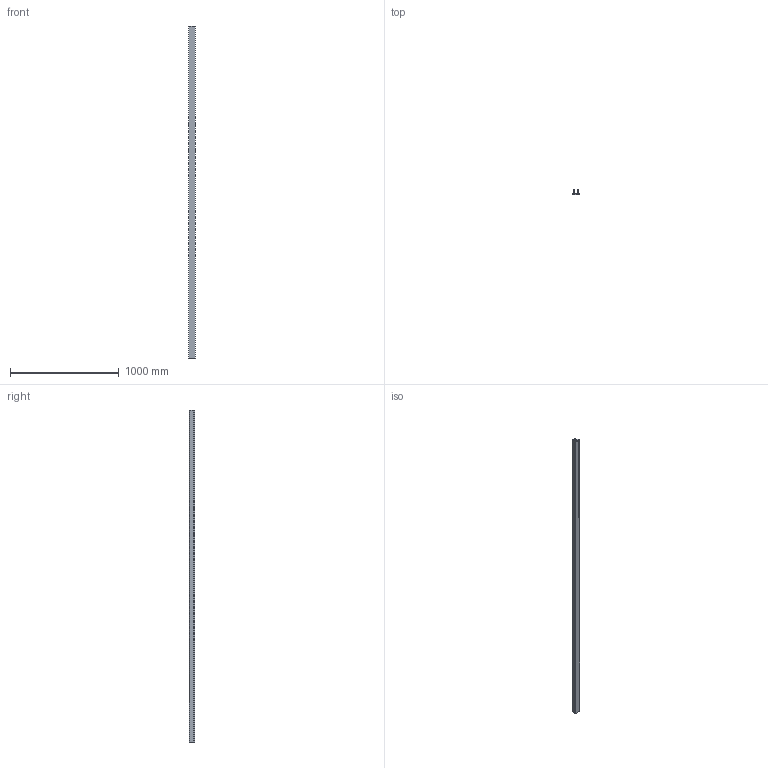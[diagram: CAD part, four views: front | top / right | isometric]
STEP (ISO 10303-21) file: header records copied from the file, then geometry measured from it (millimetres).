
FILE_DESCRIPTION(('TurboCAD Mac Pro'),'Build 980');
FILE_NAME('F20V-2300SST.stp',' ',(''),(''),'ACIS Interop','IMSI','TurboCAD Mac Pro BY IMSI, INCORPORATED');
FILE_SCHEMA(('automotive_design'));
Length unit declared in the file: inch
Products named in the file (2): 1; 2
Bounding box: 60.33 x 47.62 x 3048 mm (x, y, z)
Volume: 2849669.1 mm3; surface area: 988527.8 mm2
Topology: 1 solids, 1 shells, 36 faces, 102 edges, 68 vertices
Faces by surface type: plane 20, bspline 16
Entity records: 1996 total; most frequent: CARTESIAN_POINT 498, ORIENTED_EDGE 204, DIRECTION 132, EDGE_CURVE 102, LINE 88, VECTOR 88, STYLED_ITEM 71, PRESENTATION_STYLE_ASSIGNMENT 71
